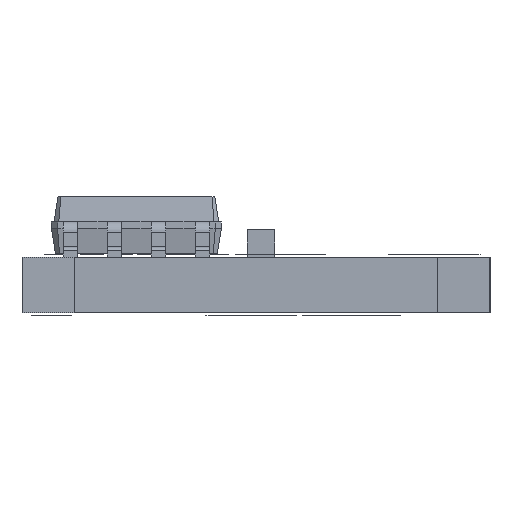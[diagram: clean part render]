
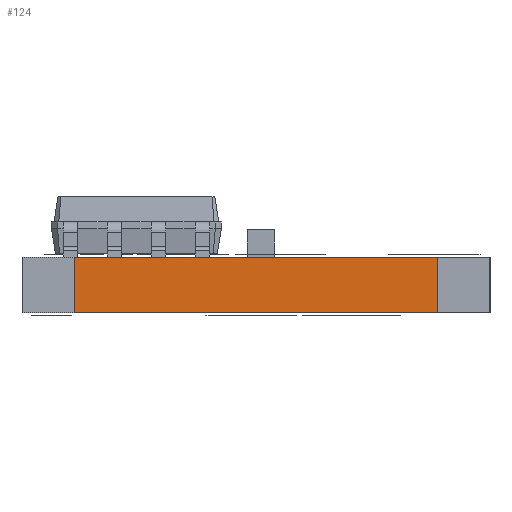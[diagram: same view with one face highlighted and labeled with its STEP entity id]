
A CAD part, left-side view. The second image highlights one B-rep face of the part: STEP entity #124.
In plain terms, the highlighted planar face has unit normal (-1, 0, 0).
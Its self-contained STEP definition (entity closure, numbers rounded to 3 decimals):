
#88 = EDGE_CURVE('',#89,#91,#93,.T.);
#89 = VERTEX_POINT('',#90);
#90 = CARTESIAN_POINT('',(30.,-118.5,0.));
#91 = VERTEX_POINT('',#92);
#92 = CARTESIAN_POINT('',(30.,-118.5,-1.6));
#93 = LINE('',#94,#95);
#94 = CARTESIAN_POINT('',(30.,-118.5,0.));
#95 = VECTOR('',#96,1.);
#96 = DIRECTION('',(0.,0.,-1.));
#124 = ADVANCED_FACE('',(#125),#150,.F.);
#125 = FACE_BOUND('',#126,.F.);
#126 = EDGE_LOOP('',(#127,#128,#136,#144));
#127 = ORIENTED_EDGE('',*,*,#88,.T.);
#128 = ORIENTED_EDGE('',*,*,#129,.T.);
#129 = EDGE_CURVE('',#91,#130,#132,.T.);
#130 = VERTEX_POINT('',#131);
#131 = CARTESIAN_POINT('',(30.,-108.,-1.6));
#132 = LINE('',#133,#134);
#133 = CARTESIAN_POINT('',(30.,-118.5,-1.6));
#134 = VECTOR('',#135,1.);
#135 = DIRECTION('',(0.,1.,0.));
#136 = ORIENTED_EDGE('',*,*,#137,.F.);
#137 = EDGE_CURVE('',#138,#130,#140,.T.);
#138 = VERTEX_POINT('',#139);
#139 = CARTESIAN_POINT('',(30.,-108.,0.));
#140 = LINE('',#141,#142);
#141 = CARTESIAN_POINT('',(30.,-108.,0.));
#142 = VECTOR('',#143,1.);
#143 = DIRECTION('',(0.,0.,-1.));
#144 = ORIENTED_EDGE('',*,*,#145,.F.);
#145 = EDGE_CURVE('',#89,#138,#146,.T.);
#146 = LINE('',#147,#148);
#147 = CARTESIAN_POINT('',(30.,-118.5,0.));
#148 = VECTOR('',#149,1.);
#149 = DIRECTION('',(0.,1.,0.));
#150 = PLANE('',#151);
#151 = AXIS2_PLACEMENT_3D('',#152,#153,#154);
#152 = CARTESIAN_POINT('',(30.,-118.5,0.));
#153 = DIRECTION('',(1.,-0.,0.));
#154 = DIRECTION('',(0.,1.,0.));
